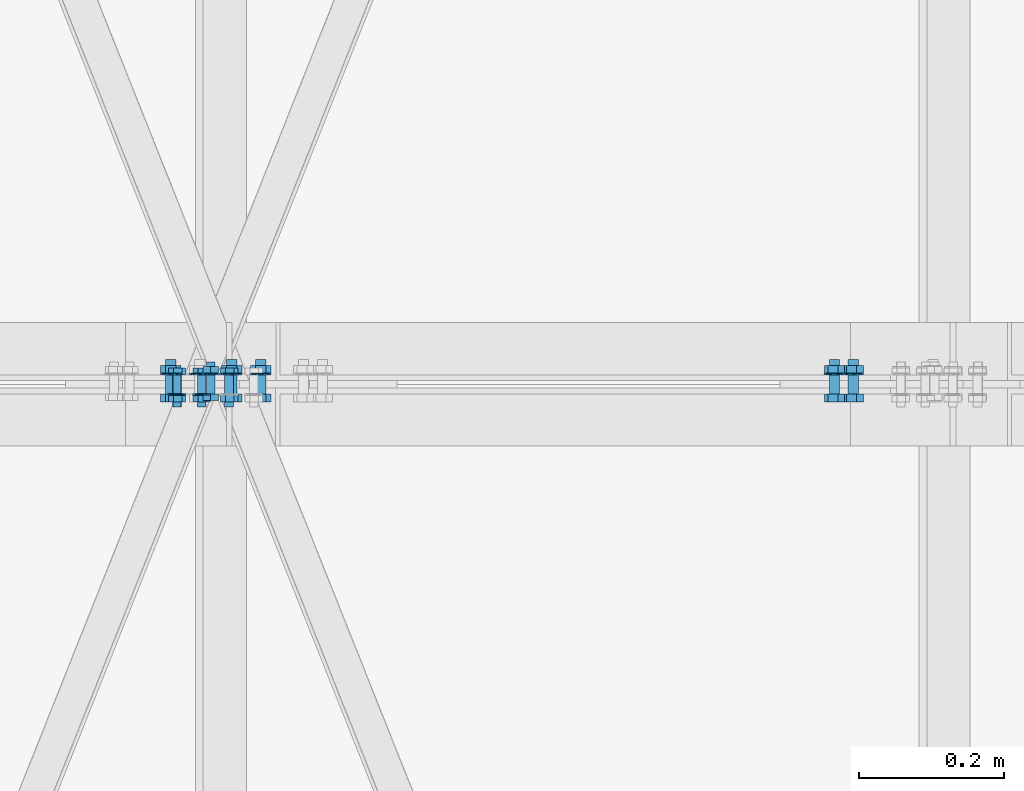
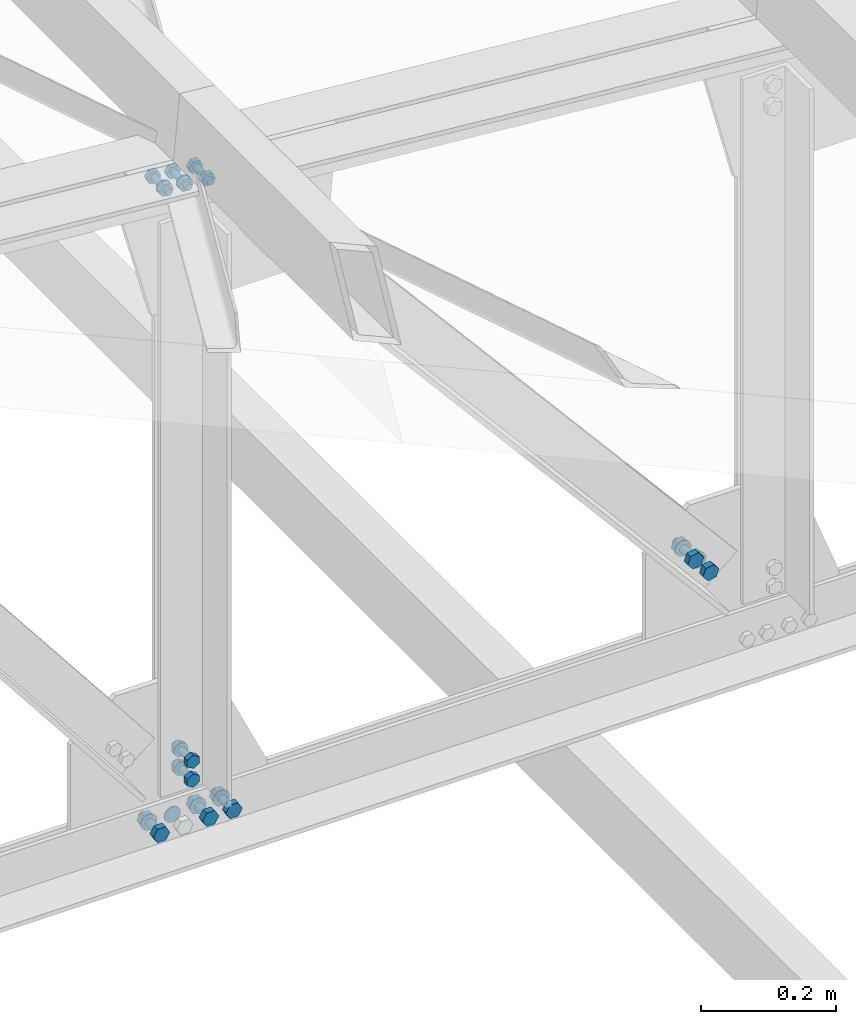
# One storey, part 158 of 251: 40 mechanical fasteners.
"""IFC4 building model written with IfcOpenShell, lengths in metres."""

from ifc_helpers import new_model, si_unit, frame, origin_with_axes, place, context, project, spatial, polyline, outline, extrude, type_object, element, save


model = new_model("IFC4")

# Units and contexts
model_context = context("Model", 3, precision=1e-05, world=origin_with_axes())
ifc_project = project(units=[si_unit("LENGTHUNIT", "METRE"), si_unit("AREAUNIT", "SQUARE_METRE"), si_unit("VOLUMEUNIT", "CUBIC_METRE"), si_unit("MASSUNIT", "GRAM", prefix="KILO"), si_unit("TIMEUNIT", "SECOND"), si_unit("PLANEANGLEUNIT", "RADIAN"), si_unit("SOLIDANGLEUNIT", "STERADIAN"), si_unit("THERMODYNAMICTEMPERATUREUNIT", "DEGREE_CELSIUS")], contexts=[model_context])

# Site, building, storey
placement_1 = place(None, origin_with_axes())
site = spatial("IfcSite", under=ifc_project, at=placement_1, Name="Italia", CompositionType="ELEMENT")
building = spatial("IfcBuilding", under=site, at=placement_1, Name="Deposito", CompositionType="ELEMENT")
storey = spatial("IfcBuildingStorey", under=building, at=placement_1, Name="Storey 0", CompositionType="ELEMENT", Elevation=0.0)

# Mechanical fasteners
mechanical_fastener_type_1 = type_object("IfcMechanicalFastenerType", Name="Reticolare 4", PredefinedType="BOLT")
placement_2 = place(placement_1, origin_with_axes())
mechanical_fastener_1_placement = place(placement_2, origin_with_axes())
element("IfcMechanicalFastener", 1, at=mechanical_fastener_1_placement, inside=storey, type_object=mechanical_fastener_type_1, Name="Reticolare 4", NominalDiameter=0.028, context=model_context, shape_type="SweptSolid", body=[
    extrude(outline(polyline([(0.0, 0.0), (-0.000476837, -0.00362349), (-0.00187492, -0.00699997), (-0.0041008, -0.00989962), (-0.00699997, -0.0121245), (-0.010376, -0.0135231), (-0.0139999, -0.0139999), (-0.0176239, -0.0135231), (-0.0209999, -0.0121245), (-0.0238991, -0.00989962), (-0.026125, -0.00699997), (-0.027523, -0.00362349), (-0.0279999, 0.0), (-0.027523, 0.00362349), (-0.026125, 0.00699997), (-0.0238991, 0.00989962), (-0.0209999, 0.0121245), (-0.0176239, 0.0135231), (-0.0139999, 0.0139999), (-0.010376, 0.0135231), (-0.00699997, 0.0121245), (-0.0041008, 0.00989962), (-0.00187492, 0.00699997), (-0.000476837, 0.00362349), (0.0, 0.0)])), frame((17.9996, 10.015, 5.009), z_axis=(0.0, -1.0, 0.0), x_axis=(1.0, 0.0, 0.0)), (0.0, 0.0, 1.0), 0.00200081),
])
mechanical_fastener_type_2 = type_object("IfcMechanicalFastenerType", Name="Reticolare 4", PredefinedType="BOLT")
mechanical_fastener_2_placement = place(placement_2, origin_with_axes())
element("IfcMechanicalFastener", 2, at=mechanical_fastener_2_placement, inside=storey, type_object=mechanical_fastener_type_2, Name="Reticolare 4", NominalDiameter=0.0139997, context=model_context, shape_type="SweptSolid", body=[
    extrude(outline(polyline([(0.0, 0.0), (-0.0139999, 0.0), (-0.0209999, 0.0121241), (-0.0139999, 0.0242486), (0.0, 0.0242486), (0.00699997, 0.0121241), (0.0, 0.0)])), frame((17.9526, 9.987, 4.99688), z_axis=(0.0, -1.0, 0.0), x_axis=(1.0, 0.0, 0.0)), (0.0, 0.0, 1.0), 0.0112009),
])
mechanical_fastener_type_3 = type_object("IfcMechanicalFastenerType", Name="Reticolare 4", PredefinedType="BOLT")
mechanical_fastener_3_placement = place(placement_2, origin_with_axes())
element("IfcMechanicalFastener", 3, at=mechanical_fastener_3_placement, inside=storey, type_object=mechanical_fastener_type_3, Name="Reticolare 4", NominalDiameter=0.014, context=model_context, shape_type="SweptSolid", body=[
    extrude(outline(polyline([(0.0, 0.0), (-0.000238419, -0.0018115), (-0.000938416, -0.00349998), (-0.0020504, -0.00494957), (-0.00349998, -0.00606203), (-0.00518799, -0.00676155), (-0.00699997, -0.00699997), (-0.00881195, -0.00676155), (-0.0105, -0.00606203), (-0.0119495, -0.00494957), (-0.0130615, -0.00349998), (-0.0137615, -0.0018115), (-0.0139999, 0.0), (-0.0137615, 0.0018115), (-0.0130615, 0.00349998), (-0.0119495, 0.00494957), (-0.0105, 0.00606203), (-0.00881195, 0.00676155), (-0.00699997, 0.00699997), (-0.00518799, 0.00676155), (-0.00349998, 0.00606203), (-0.0020504, 0.00494957), (-0.000938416, 0.00349998), (-0.000238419, 0.0018115), (0.0, 0.0)])), frame((17.9526, 10.034, 5.009), z_axis=(0.0, -1.0, 0.0), x_axis=(1.0, 0.0, 0.0)), (0.0, 0.0, 1.0), 0.0469999),
])
mechanical_fastener_type_4 = type_object("IfcMechanicalFastenerType", Name="Reticolare 4", PredefinedType="BOLT")
mechanical_fastener_4_placement = place(placement_2, origin_with_axes())
element("IfcMechanicalFastener", 4, at=mechanical_fastener_4_placement, inside=storey, type_object=mechanical_fastener_type_4, Name="Reticolare 4", NominalDiameter=0.0139997, context=model_context, shape_type="SweptSolid", body=[
    extrude(outline(polyline([(0.0, 0.0), (-0.0139999, 0.0), (-0.0209999, 0.0121241), (-0.0139999, 0.0242486), (0.0, 0.0242486), (0.00699997, 0.0121241), (0.0, 0.0)])), frame((17.9526, 10.0262, 4.99688), z_axis=(0.0, -1.0, 0.0), x_axis=(1.0, 0.0, 0.0)), (0.0, 0.0, 1.0), 0.0112),
])
mechanical_fastener_type_5 = type_object("IfcMechanicalFastenerType", Name="Reticolare 4", PredefinedType="BOLT")
mechanical_fastener_5_placement = place(placement_2, origin_with_axes())
element("IfcMechanicalFastener", 5, at=mechanical_fastener_5_placement, inside=storey, type_object=mechanical_fastener_type_5, Name="Reticolare 4", NominalDiameter=0.028, context=model_context, shape_type="SweptSolid", body=[
    extrude(outline(polyline([(0.0, 0.0), (-0.000476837, -0.00362349), (-0.00187492, -0.00699997), (-0.0041008, -0.00989962), (-0.00699997, -0.0121245), (-0.010376, -0.0135231), (-0.0139999, -0.0139999), (-0.0176239, -0.0135231), (-0.0209999, -0.0121245), (-0.0238991, -0.00989962), (-0.026125, -0.00699997), (-0.027523, -0.00362349), (-0.0279999, 0.0), (-0.027523, 0.00362349), (-0.026125, 0.00699997), (-0.0238991, 0.00989962), (-0.0209999, 0.0121245), (-0.0176239, 0.0135231), (-0.0139999, 0.0139999), (-0.010376, 0.0135231), (-0.00699997, 0.0121245), (-0.0041008, 0.00989962), (-0.00187492, 0.00699997), (-0.000476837, 0.00362349), (0.0, 0.0)])), frame((17.9596, 10.015, 5.009), z_axis=(0.0, -1.0, 0.0), x_axis=(1.0, 0.0, 0.0)), (0.0, 0.0, 1.0), 0.00200081),
])
mechanical_fastener_type_6 = type_object("IfcMechanicalFastenerType", Name="Reticolare 4", PredefinedType="BOLT")
mechanical_fastener_6_placement = place(placement_2, origin_with_axes())
element("IfcMechanicalFastener", 6, at=mechanical_fastener_6_placement, inside=storey, type_object=mechanical_fastener_type_6, Name="Reticolare 4", NominalDiameter=0.0139997, context=model_context, shape_type="SweptSolid", body=[
    extrude(outline(polyline([(0.0, 0.0), (-0.0139999, 0.0), (-0.0209999, 0.0121241), (-0.0139999, 0.0242486), (0.0, 0.0242486), (0.00699997, 0.0121241), (0.0, 0.0)])), frame((18.0366, 9.987, 4.99688), z_axis=(0.0, -1.0, 0.0), x_axis=(1.0, 0.0, 0.0)), (0.0, 0.0, 1.0), 0.0112009),
])
mechanical_fastener_type_7 = type_object("IfcMechanicalFastenerType", Name="Reticolare 4", PredefinedType="BOLT")
mechanical_fastener_7_placement = place(placement_2, origin_with_axes())
element("IfcMechanicalFastener", 7, at=mechanical_fastener_7_placement, inside=storey, type_object=mechanical_fastener_type_7, Name="Reticolare 4", NominalDiameter=0.014, context=model_context, shape_type="SweptSolid", body=[
    extrude(outline(polyline([(0.0, 0.0), (-0.000238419, -0.0018115), (-0.000938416, -0.00349998), (-0.0020504, -0.00494957), (-0.00349998, -0.00606203), (-0.00518799, -0.00676155), (-0.00699997, -0.00699997), (-0.00881195, -0.00676155), (-0.0105, -0.00606203), (-0.0119495, -0.00494957), (-0.0130615, -0.00349998), (-0.0137615, -0.0018115), (-0.0139999, 0.0), (-0.0137615, 0.0018115), (-0.0130615, 0.00349998), (-0.0119495, 0.00494957), (-0.0105, 0.00606203), (-0.00881195, 0.00676155), (-0.00699997, 0.00699997), (-0.00518799, 0.00676155), (-0.00349998, 0.00606203), (-0.0020504, 0.00494957), (-0.000938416, 0.00349998), (-0.000238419, 0.0018115), (0.0, 0.0)])), frame((18.0366, 10.034, 5.009), z_axis=(0.0, -1.0, 0.0), x_axis=(1.0, 0.0, 0.0)), (0.0, 0.0, 1.0), 0.0469999),
])
mechanical_fastener_type_8 = type_object("IfcMechanicalFastenerType", Name="Reticolare 4", PredefinedType="BOLT")
mechanical_fastener_8_placement = place(placement_2, origin_with_axes())
element("IfcMechanicalFastener", 8, at=mechanical_fastener_8_placement, inside=storey, type_object=mechanical_fastener_type_8, Name="Reticolare 4", NominalDiameter=0.0139997, context=model_context, shape_type="SweptSolid", body=[
    extrude(outline(polyline([(0.0, 0.0), (-0.0139999, 0.0), (-0.0209999, 0.0121241), (-0.0139999, 0.0242486), (0.0, 0.0242486), (0.00699997, 0.0121241), (0.0, 0.0)])), frame((18.0366, 10.0262, 4.99688), z_axis=(0.0, -1.0, 0.0), x_axis=(1.0, 0.0, 0.0)), (0.0, 0.0, 1.0), 0.0112),
])
mechanical_fastener_type_9 = type_object("IfcMechanicalFastenerType", Name="Reticolare 4", PredefinedType="BOLT")
mechanical_fastener_9_placement = place(placement_2, origin_with_axes())
element("IfcMechanicalFastener", 9, at=mechanical_fastener_9_placement, inside=storey, type_object=mechanical_fastener_type_9, Name="Reticolare 4", NominalDiameter=0.028, context=model_context, shape_type="SweptSolid", body=[
    extrude(outline(polyline([(0.0, 0.0), (-0.000476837, -0.00362349), (-0.00187492, -0.00699997), (-0.0041008, -0.00989962), (-0.00699997, -0.0121245), (-0.010376, -0.0135231), (-0.0139999, -0.0139999), (-0.0176239, -0.0135231), (-0.0209999, -0.0121245), (-0.0238991, -0.00989962), (-0.026125, -0.00699997), (-0.027523, -0.00362349), (-0.0279999, 0.0), (-0.027523, 0.00362349), (-0.026125, 0.00699997), (-0.0238991, 0.00989962), (-0.0209999, 0.0121245), (-0.0176239, 0.0135231), (-0.0139999, 0.0139999), (-0.010376, 0.0135231), (-0.00699997, 0.0121245), (-0.0041008, 0.00989962), (-0.00187492, 0.00699997), (-0.000476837, 0.00362349), (0.0, 0.0)])), frame((18.0436, 10.015, 5.009), z_axis=(0.0, -1.0, 0.0), x_axis=(1.0, 0.0, 0.0)), (0.0, 0.0, 1.0), 0.00200081),
])
mechanical_fastener_type_10 = type_object("IfcMechanicalFastenerType", Name="Reticolare 4", PredefinedType="BOLT")
mechanical_fastener_10_placement = place(placement_2, origin_with_axes())
element("IfcMechanicalFastener", 10, at=mechanical_fastener_10_placement, inside=storey, type_object=mechanical_fastener_type_10, Name="Reticolare 4", NominalDiameter=0.0139997, context=model_context, shape_type="SweptSolid", body=[
    extrude(outline(polyline([(0.0, 0.0), (-0.0139999, 0.0), (-0.0209999, 0.0121241), (-0.0139999, 0.0242486), (0.0, 0.0242486), (0.00699997, 0.0121241), (0.0, 0.0)])), frame((18.0766, 9.987, 4.99688), z_axis=(0.0, -1.0, 0.0), x_axis=(1.0, 0.0, 0.0)), (0.0, 0.0, 1.0), 0.0112009),
])
mechanical_fastener_type_11 = type_object("IfcMechanicalFastenerType", Name="Reticolare 4", PredefinedType="BOLT")
mechanical_fastener_11_placement = place(placement_2, origin_with_axes())
element("IfcMechanicalFastener", 11, at=mechanical_fastener_11_placement, inside=storey, type_object=mechanical_fastener_type_11, Name="Reticolare 4", NominalDiameter=0.014, context=model_context, shape_type="SweptSolid", body=[
    extrude(outline(polyline([(0.0, 0.0), (-0.000238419, -0.0018115), (-0.000938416, -0.00349998), (-0.0020504, -0.00494957), (-0.00349998, -0.00606203), (-0.00518799, -0.00676155), (-0.00699997, -0.00699997), (-0.00881195, -0.00676155), (-0.0105, -0.00606203), (-0.0119495, -0.00494957), (-0.0130615, -0.00349998), (-0.0137615, -0.0018115), (-0.0139999, 0.0), (-0.0137615, 0.0018115), (-0.0130615, 0.00349998), (-0.0119495, 0.00494957), (-0.0105, 0.00606203), (-0.00881195, 0.00676155), (-0.00699997, 0.00699997), (-0.00518799, 0.00676155), (-0.00349998, 0.00606203), (-0.0020504, 0.00494957), (-0.000938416, 0.00349998), (-0.000238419, 0.0018115), (0.0, 0.0)])), frame((18.0766, 10.034, 5.009), z_axis=(0.0, -1.0, 0.0), x_axis=(1.0, 0.0, 0.0)), (0.0, 0.0, 1.0), 0.0469999),
])
mechanical_fastener_type_12 = type_object("IfcMechanicalFastenerType", Name="Reticolare 4", PredefinedType="BOLT")
mechanical_fastener_12_placement = place(placement_2, origin_with_axes())
element("IfcMechanicalFastener", 12, at=mechanical_fastener_12_placement, inside=storey, type_object=mechanical_fastener_type_12, Name="Reticolare 4", NominalDiameter=0.0139997, context=model_context, shape_type="SweptSolid", body=[
    extrude(outline(polyline([(0.0, 0.0), (-0.0139999, 0.0), (-0.0209999, 0.0121241), (-0.0139999, 0.0242486), (0.0, 0.0242486), (0.00699997, 0.0121241), (0.0, 0.0)])), frame((18.0766, 10.0262, 4.99688), z_axis=(0.0, -1.0, 0.0), x_axis=(1.0, 0.0, 0.0)), (0.0, 0.0, 1.0), 0.0112),
])
mechanical_fastener_type_13 = type_object("IfcMechanicalFastenerType", Name="Reticolare 4", PredefinedType="BOLT")
mechanical_fastener_13_placement = place(placement_2, origin_with_axes())
element("IfcMechanicalFastener", 13, at=mechanical_fastener_13_placement, inside=storey, type_object=mechanical_fastener_type_13, Name="Reticolare 4", NominalDiameter=0.028, context=model_context, shape_type="SweptSolid", body=[
    extrude(outline(polyline([(0.0, 0.0), (-0.000476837, -0.00362349), (-0.00187492, -0.00699997), (-0.0041008, -0.00989962), (-0.00699997, -0.0121245), (-0.010376, -0.0135231), (-0.0139999, -0.0139999), (-0.0176239, -0.0135231), (-0.0209999, -0.0121245), (-0.0238991, -0.00989962), (-0.026125, -0.00699997), (-0.027523, -0.00362349), (-0.0279999, 0.0), (-0.027523, 0.00362349), (-0.026125, 0.00699997), (-0.0238991, 0.00989962), (-0.0209999, 0.0121245), (-0.0176239, 0.0135231), (-0.0139999, 0.0139999), (-0.010376, 0.0135231), (-0.00699997, 0.0121245), (-0.0041008, 0.00989962), (-0.00187492, 0.00699997), (-0.000476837, 0.00362349), (0.0, 0.0)])), frame((18.0836, 10.015, 5.009), z_axis=(0.0, -1.0, 0.0), x_axis=(1.0, 0.0, 0.0)), (0.0, 0.0, 1.0), 0.00200081),
])
mechanical_fastener_type_14 = type_object("IfcMechanicalFastenerType", Name="Reticolare 4", PredefinedType="BOLT")
mechanical_fastener_14_placement = place(placement_2, origin_with_axes())
element("IfcMechanicalFastener", 14, at=mechanical_fastener_14_placement, inside=storey, type_object=mechanical_fastener_type_14, Name="Reticolare 4", NominalDiameter=0.0120001, context=model_context, shape_type="SweptSolid", body=[
    extrude(outline(polyline([(0.0, 0.0), (0.0, -0.0120001), (-0.0103931, -0.0180001), (-0.0207863, -0.0120001), (-0.0207863, 0.0), (-0.0103931, 0.00600004), (0.0, 0.0)])), frame((18.011, 9.987, 5.09253), z_axis=(0.0, -1.0, 0.0), x_axis=(1.0, 0.0, 0.0)), (0.0, 0.0, 1.0), 0.00960064),
])
mechanical_fastener_type_15 = type_object("IfcMechanicalFastenerType", Name="Reticolare 4", PredefinedType="BOLT")
mechanical_fastener_15_placement = place(placement_2, origin_with_axes())
element("IfcMechanicalFastener", 15, at=mechanical_fastener_15_placement, inside=storey, type_object=mechanical_fastener_type_15, Name="Reticolare 4", NominalDiameter=0.012, context=model_context, shape_type="SweptSolid", body=[
    extrude(outline(polyline([(0.0, 0.0), (-0.000204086, -0.00155306), (-0.000804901, -0.00299978), (-0.00175858, -0.00424242), (-0.00300026, -0.00519609), (-0.00444794, -0.00579548), (-0.00600052, -0.00600004), (-0.0075531, -0.00579548), (-0.00900078, -0.00519609), (-0.0102425, -0.00424242), (-0.0111961, -0.00299978), (-0.011797, -0.00155306), (-0.012001, 0.0), (-0.011797, 0.00155306), (-0.0111961, 0.00299978), (-0.0102425, 0.00424242), (-0.00900078, 0.00519609), (-0.0075531, 0.00579548), (-0.00600052, 0.00600004), (-0.00444794, 0.00579548), (-0.00300026, 0.00519609), (-0.00175858, 0.00424242), (-0.000804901, 0.00299978), (-0.000204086, 0.00155306), (0.0, 0.0)])), frame((18.0066, 10.031, 5.08653), z_axis=(0.0, -1.0, 0.0), x_axis=(1.0, 0.0, 0.0)), (0.0, 0.0, 1.0), 0.0439997),
])
mechanical_fastener_type_16 = type_object("IfcMechanicalFastenerType", Name="Reticolare 4", PredefinedType="BOLT")
mechanical_fastener_16_placement = place(placement_2, origin_with_axes())
element("IfcMechanicalFastener", 16, at=mechanical_fastener_16_placement, inside=storey, type_object=mechanical_fastener_type_16, Name="Reticolare 4", NominalDiameter=0.0120001, context=model_context, shape_type="SweptSolid", body=[
    extrude(outline(polyline([(0.0, 0.0), (0.0, -0.0120001), (-0.0103931, -0.0180001), (-0.0207863, -0.0120001), (-0.0207863, 0.0), (-0.0103931, 0.00600004), (0.0, 0.0)])), frame((18.011, 10.0246, 5.09253), z_axis=(0.0, -1.0, 0.0), x_axis=(1.0, 0.0, 0.0)), (0.0, 0.0, 1.0), 0.00959969),
])
mechanical_fastener_type_17 = type_object("IfcMechanicalFastenerType", Name="Reticolare 4", PredefinedType="BOLT")
mechanical_fastener_17_placement = place(placement_2, origin_with_axes())
element("IfcMechanicalFastener", 17, at=mechanical_fastener_17_placement, inside=storey, type_object=mechanical_fastener_type_17, Name="Reticolare 4", NominalDiameter=0.024, context=model_context, shape_type="SweptSolid", body=[
    extrude(outline(polyline([(0.0, 0.0), (-0.000408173, -0.00310564), (-0.00160599, -0.00600004), (-0.00351334, -0.00848532), (-0.00599861, -0.0103922), (-0.00889397, -0.011591), (-0.0119991, -0.0120001), (-0.0151043, -0.011591), (-0.0179996, -0.0103922), (-0.0204849, -0.00848532), (-0.0223923, -0.00600004), (-0.0235901, -0.00310564), (-0.0239983, 0.0), (-0.0235901, 0.00310564), (-0.0223923, 0.00600004), (-0.0204849, 0.00848532), (-0.0179996, 0.0103922), (-0.0151043, 0.011591), (-0.0119991, 0.0120001), (-0.00889397, 0.011591), (-0.00599861, 0.0103922), (-0.00351334, 0.00848532), (-0.00160599, 0.00600004), (-0.000408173, 0.00310564), (0.0, 0.0)])), frame((18.0126, 10.015, 5.08653), z_axis=(0.0, -1.0, 0.0), x_axis=(1.0, 0.0, 0.0)), (0.0, 0.0, 1.0), 0.00200081),
])
mechanical_fastener_type_18 = type_object("IfcMechanicalFastenerType", Name="Reticolare 4", PredefinedType="BOLT")
mechanical_fastener_18_placement = place(placement_2, origin_with_axes())
element("IfcMechanicalFastener", 18, at=mechanical_fastener_18_placement, inside=storey, type_object=mechanical_fastener_type_18, Name="Reticolare 4", NominalDiameter=0.0120001, context=model_context, shape_type="SweptSolid", body=[
    extrude(outline(polyline([(0.0, 0.0), (0.0, -0.0120001), (-0.0103931, -0.0180001), (-0.0207863, -0.0120001), (-0.0207863, 0.0), (-0.0103931, 0.00600004), (0.0, 0.0)])), frame((18.011, 9.987, 5.12653), z_axis=(0.0, -1.0, 0.0), x_axis=(1.0, 0.0, 0.0)), (0.0, 0.0, 1.0), 0.00960064),
])
mechanical_fastener_type_19 = type_object("IfcMechanicalFastenerType", Name="Reticolare 4", PredefinedType="BOLT")
mechanical_fastener_19_placement = place(placement_2, origin_with_axes())
element("IfcMechanicalFastener", 19, at=mechanical_fastener_19_placement, inside=storey, type_object=mechanical_fastener_type_19, Name="Reticolare 4", NominalDiameter=0.012, context=model_context, shape_type="SweptSolid", body=[
    extrude(outline(polyline([(0.0, 0.0), (-0.000204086, -0.00155306), (-0.000804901, -0.00299978), (-0.00175858, -0.00424242), (-0.00300026, -0.00519609), (-0.00444794, -0.00579548), (-0.00600052, -0.00600004), (-0.0075531, -0.00579548), (-0.00900078, -0.00519609), (-0.0102425, -0.00424242), (-0.0111961, -0.00299978), (-0.011797, -0.00155306), (-0.012001, 0.0), (-0.011797, 0.00155306), (-0.0111961, 0.00299978), (-0.0102425, 0.00424242), (-0.00900078, 0.00519609), (-0.0075531, 0.00579548), (-0.00600052, 0.00600004), (-0.00444794, 0.00579548), (-0.00300026, 0.00519609), (-0.00175858, 0.00424242), (-0.000804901, 0.00299978), (-0.000204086, 0.00155306), (0.0, 0.0)])), frame((18.0066, 10.031, 5.12053), z_axis=(0.0, -1.0, 0.0), x_axis=(1.0, 0.0, 0.0)), (0.0, 0.0, 1.0), 0.0439997),
])
mechanical_fastener_type_20 = type_object("IfcMechanicalFastenerType", Name="Reticolare 4", PredefinedType="BOLT")
mechanical_fastener_20_placement = place(placement_2, origin_with_axes())
element("IfcMechanicalFastener", 20, at=mechanical_fastener_20_placement, inside=storey, type_object=mechanical_fastener_type_20, Name="Reticolare 4", NominalDiameter=0.0120001, context=model_context, shape_type="SweptSolid", body=[
    extrude(outline(polyline([(0.0, 0.0), (0.0, -0.0120001), (-0.0103931, -0.0180001), (-0.0207863, -0.0120001), (-0.0207863, 0.0), (-0.0103931, 0.00600004), (0.0, 0.0)])), frame((18.011, 10.0246, 5.12653), z_axis=(0.0, -1.0, 0.0), x_axis=(1.0, 0.0, 0.0)), (0.0, 0.0, 1.0), 0.00959969),
])
mechanical_fastener_type_21 = type_object("IfcMechanicalFastenerType", Name="Reticolare 4", PredefinedType="BOLT")
mechanical_fastener_21_placement = place(placement_2, origin_with_axes())
element("IfcMechanicalFastener", 21, at=mechanical_fastener_21_placement, inside=storey, type_object=mechanical_fastener_type_21, Name="Reticolare 4", NominalDiameter=0.024, context=model_context, shape_type="SweptSolid", body=[
    extrude(outline(polyline([(0.0, 0.0), (-0.000408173, -0.00310564), (-0.00160599, -0.00600004), (-0.00351334, -0.00848532), (-0.00599861, -0.0103922), (-0.00889397, -0.011591), (-0.0119991, -0.0120001), (-0.0151043, -0.011591), (-0.0179996, -0.0103922), (-0.0204849, -0.00848532), (-0.0223923, -0.00600004), (-0.0235901, -0.00310564), (-0.0239983, 0.0), (-0.0235901, 0.00310564), (-0.0223923, 0.00600004), (-0.0204849, 0.00848532), (-0.0179996, 0.0103922), (-0.0151043, 0.011591), (-0.0119991, 0.0120001), (-0.00889397, 0.011591), (-0.00599861, 0.0103922), (-0.00351334, 0.00848532), (-0.00160599, 0.00600004), (-0.000408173, 0.00310564), (0.0, 0.0)])), frame((18.0126, 10.015, 5.12053), z_axis=(0.0, -1.0, 0.0), x_axis=(1.0, 0.0, 0.0)), (0.0, 0.0, 1.0), 0.00200081),
])
mechanical_fastener_type_22 = type_object("IfcMechanicalFastenerType", Name="Reticolare 4", PredefinedType="BOLT")
mechanical_fastener_22_placement = place(placement_2, origin_with_axes())
element("IfcMechanicalFastener", 22, at=mechanical_fastener_22_placement, inside=storey, type_object=mechanical_fastener_type_22, Name="Reticolare 4", NominalDiameter=0.0139996, context=model_context, shape_type="SweptSolid", body=[
    extrude(outline(polyline([(0.0, 0.0), (-0.00905609, 0.0106759), (-0.00433922, 0.0238571), (0.00943565, 0.0263624), (0.0184917, 0.0156865), (0.0137749, 0.0025053), (0.0, 0.0)])), frame((18.8804, 9.987, 5.1407), z_axis=(0.0, -1.0, 0.0), x_axis=(1.0, 0.0, 0.0)), (0.0, 0.0, 1.0), 0.0112009),
])
mechanical_fastener_type_23 = type_object("IfcMechanicalFastenerType", Name="Reticolare 4", PredefinedType="BOLT")
mechanical_fastener_23_placement = place(placement_2, origin_with_axes())
element("IfcMechanicalFastener", 23, at=mechanical_fastener_23_placement, inside=storey, type_object=mechanical_fastener_type_23, Name="Reticolare 4", NominalDiameter=0.014, context=model_context, shape_type="SweptSolid", body=[
    extrude(outline(polyline([(0.0, 0.0), (-0.000238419, -0.0018115), (-0.000938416, -0.00349998), (-0.0020504, -0.00494957), (-0.00349998, -0.00606203), (-0.00518799, -0.00676155), (-0.00699997, -0.00699997), (-0.00881195, -0.00676155), (-0.0105, -0.00606203), (-0.0119495, -0.00494957), (-0.0130615, -0.00349998), (-0.0137615, -0.0018115), (-0.0139999, 0.0), (-0.0137615, 0.0018115), (-0.0130615, 0.00349998), (-0.0119495, 0.00494957), (-0.0105, 0.00606203), (-0.00881195, 0.00676155), (-0.00699997, 0.00699997), (-0.00518799, 0.00676155), (-0.00349998, 0.00606203), (-0.0020504, 0.00494957), (-0.000938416, 0.00349998), (-0.000238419, 0.0018115), (0.0, 0.0)])), frame((18.8921, 10.034, 5.15388), z_axis=(0.0, -1.0, 0.0), x_axis=(1.0, 0.0, 0.0)), (0.0, 0.0, 1.0), 0.0469999),
])
mechanical_fastener_type_24 = type_object("IfcMechanicalFastenerType", Name="Reticolare 4", PredefinedType="BOLT")
mechanical_fastener_24_placement = place(placement_2, origin_with_axes())
element("IfcMechanicalFastener", 24, at=mechanical_fastener_24_placement, inside=storey, type_object=mechanical_fastener_type_24, Name="Reticolare 4", NominalDiameter=0.0139996, context=model_context, shape_type="SweptSolid", body=[
    extrude(outline(polyline([(0.0, 0.0), (-0.00905609, 0.0106759), (-0.00433922, 0.0238571), (0.00943565, 0.0263624), (0.0184917, 0.0156865), (0.0137749, 0.0025053), (0.0, 0.0)])), frame((18.8804, 10.0262, 5.1407), z_axis=(0.0, -1.0, 0.0), x_axis=(1.0, 0.0, 0.0)), (0.0, 0.0, 1.0), 0.0112),
])
mechanical_fastener_type_25 = type_object("IfcMechanicalFastenerType", Name="Reticolare 4", PredefinedType="BOLT")
mechanical_fastener_25_placement = place(placement_2, origin_with_axes())
element("IfcMechanicalFastener", 25, at=mechanical_fastener_25_placement, inside=storey, type_object=mechanical_fastener_type_25, Name="Reticolare 4", NominalDiameter=0.028, context=model_context, shape_type="SweptSolid", body=[
    extrude(outline(polyline([(0.0, 0.0), (-0.000476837, -0.00362349), (-0.00187492, -0.00699997), (-0.0041008, -0.00989962), (-0.00699997, -0.0121245), (-0.010376, -0.0135231), (-0.0139999, -0.0139999), (-0.0176239, -0.0135231), (-0.0209999, -0.0121245), (-0.0238991, -0.00989962), (-0.026125, -0.00699997), (-0.027523, -0.00362349), (-0.0279999, 0.0), (-0.027523, 0.00362349), (-0.026125, 0.00699997), (-0.0238991, 0.00989962), (-0.0209999, 0.0121245), (-0.0176239, 0.0135231), (-0.0139999, 0.0139999), (-0.010376, 0.0135231), (-0.00699997, 0.0121245), (-0.0041008, 0.00989962), (-0.00187492, 0.00699997), (-0.000476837, 0.00362349), (0.0, 0.0)])), frame((18.8991, 10.015, 5.15388), z_axis=(0.0, -1.0, 0.0), x_axis=(1.0, 0.0, 0.0)), (0.0, 0.0, 1.0), 0.00200081),
])
mechanical_fastener_type_26 = type_object("IfcMechanicalFastenerType", Name="Reticolare 4", PredefinedType="BOLT")
mechanical_fastener_26_placement = place(placement_2, origin_with_axes())
element("IfcMechanicalFastener", 26, at=mechanical_fastener_26_placement, inside=storey, type_object=mechanical_fastener_type_26, Name="Reticolare 4", NominalDiameter=0.013999, context=model_context, shape_type="SweptSolid", body=[
    extrude(outline(polyline([(0.0, 0.0), (-0.009058, 0.0106759), (-0.00433922, 0.0238571), (0.00943375, 0.0263624), (0.0184917, 0.0156865), (0.013773, 0.0025053), (0.0, 0.0)])), frame((18.8545, 9.987, 5.1712), z_axis=(0.0, -1.0, 0.0), x_axis=(1.0, 0.0, 0.0)), (0.0, 0.0, 1.0), 0.0112009),
])
mechanical_fastener_type_27 = type_object("IfcMechanicalFastenerType", Name="Reticolare 4", PredefinedType="BOLT")
mechanical_fastener_27_placement = place(placement_2, origin_with_axes())
element("IfcMechanicalFastener", 27, at=mechanical_fastener_27_placement, inside=storey, type_object=mechanical_fastener_type_27, Name="Reticolare 4", NominalDiameter=0.014, context=model_context, shape_type="SweptSolid", body=[
    extrude(outline(polyline([(0.0, 0.0), (-0.000238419, -0.0018115), (-0.000938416, -0.00349998), (-0.0020504, -0.00494957), (-0.00349998, -0.00606203), (-0.00518799, -0.00676155), (-0.00699997, -0.00699997), (-0.00881195, -0.00676155), (-0.0105, -0.00606203), (-0.0119495, -0.00494957), (-0.0130615, -0.00349998), (-0.0137615, -0.0018115), (-0.0139999, 0.0), (-0.0137615, 0.0018115), (-0.0130615, 0.00349998), (-0.0119495, 0.00494957), (-0.0105, 0.00606203), (-0.00881195, 0.00676155), (-0.00699997, 0.00699997), (-0.00518799, 0.00676155), (-0.00349998, 0.00606203), (-0.0020504, 0.00494957), (-0.000938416, 0.00349998), (-0.000238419, 0.0018115), (0.0, 0.0)])), frame((18.8662, 10.034, 5.18438), z_axis=(0.0, -1.0, 0.0), x_axis=(1.0, 0.0, 0.0)), (0.0, 0.0, 1.0), 0.0469999),
])
mechanical_fastener_type_28 = type_object("IfcMechanicalFastenerType", Name="Reticolare 4", PredefinedType="BOLT")
mechanical_fastener_28_placement = place(placement_2, origin_with_axes())
element("IfcMechanicalFastener", 28, at=mechanical_fastener_28_placement, inside=storey, type_object=mechanical_fastener_type_28, Name="Reticolare 4", NominalDiameter=0.013999, context=model_context, shape_type="SweptSolid", body=[
    extrude(outline(polyline([(0.0, 0.0), (-0.009058, 0.0106759), (-0.00433922, 0.0238571), (0.00943375, 0.0263624), (0.0184917, 0.0156865), (0.013773, 0.0025053), (0.0, 0.0)])), frame((18.8545, 10.0262, 5.1712), z_axis=(0.0, -1.0, 0.0), x_axis=(1.0, 0.0, 0.0)), (0.0, 0.0, 1.0), 0.0112),
])
mechanical_fastener_type_29 = type_object("IfcMechanicalFastenerType", Name="Reticolare 4", PredefinedType="BOLT")
mechanical_fastener_29_placement = place(placement_2, origin_with_axes())
element("IfcMechanicalFastener", 29, at=mechanical_fastener_29_placement, inside=storey, type_object=mechanical_fastener_type_29, Name="Reticolare 4", NominalDiameter=0.028, context=model_context, shape_type="SweptSolid", body=[
    extrude(outline(polyline([(0.0, 0.0), (-0.000476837, -0.00362349), (-0.00187492, -0.00699997), (-0.0041008, -0.00989962), (-0.00699997, -0.0121245), (-0.010376, -0.0135231), (-0.0139999, -0.0139999), (-0.0176239, -0.0135231), (-0.0209999, -0.0121245), (-0.0238991, -0.00989962), (-0.026125, -0.00699997), (-0.027523, -0.00362349), (-0.0279999, 0.0), (-0.027523, 0.00362349), (-0.026125, 0.00699997), (-0.0238991, 0.00989962), (-0.0209999, 0.0121245), (-0.0176239, 0.0135231), (-0.0139999, 0.0139999), (-0.010376, 0.0135231), (-0.00699997, 0.0121245), (-0.0041008, 0.00989962), (-0.00187492, 0.00699997), (-0.000476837, 0.00362349), (0.0, 0.0)])), frame((18.8732, 10.015, 5.18438), z_axis=(0.0, -1.0, 0.0), x_axis=(1.0, 0.0, 0.0)), (0.0, 0.0, 1.0), 0.00200081),
])
mechanical_fastener_type_30 = type_object("IfcMechanicalFastenerType", Name="Reticolare 4", PredefinedType="BOLT")
mechanical_fastener_30_placement = place(placement_2, origin_with_axes())
element("IfcMechanicalFastener", 30, at=mechanical_fastener_30_placement, inside=storey, type_object=mechanical_fastener_type_30, Name="Reticolare 4", NominalDiameter=0.011999, context=model_context, shape_type="SweptSolid", body=[
    extrude(outline(polyline([(0.0, 0.0), (0.0119534, 0.00104618), (0.018837, -0.00878382), (0.0137653, -0.0196595), (0.00181198, -0.0207052), (-0.00507164, -0.0108757), (0.0, 0.0)])), frame((17.995, 10.013, 6.17882), z_axis=(0.0, 1.0, 0.0), x_axis=(-1.0, 0.0, 0.0)), (0.0, 0.0, 1.0), 0.00960064),
])
mechanical_fastener_type_31 = type_object("IfcMechanicalFastenerType", Name="Reticolare 4", PredefinedType="BOLT")
mechanical_fastener_31_placement = place(placement_2, origin_with_axes())
element("IfcMechanicalFastener", 31, at=mechanical_fastener_31_placement, inside=storey, type_object=mechanical_fastener_type_31, Name="Reticolare 4", NominalDiameter=0.012, context=model_context, shape_type="SweptSolid", body=[
    extrude(outline(polyline([(0.0, 0.0), (-0.000204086, -0.00155306), (-0.000804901, -0.00299978), (-0.00175858, -0.00424242), (-0.00300026, -0.00519609), (-0.00444794, -0.00579548), (-0.00600052, -0.00600004), (-0.0075531, -0.00579548), (-0.00900078, -0.00519609), (-0.0102425, -0.00424242), (-0.0111961, -0.00299978), (-0.011797, -0.00155306), (-0.012001, 0.0), (-0.011797, 0.00155306), (-0.0111961, 0.00299978), (-0.0102425, 0.00424242), (-0.00900078, 0.00519609), (-0.0075531, 0.00579548), (-0.00600052, 0.00600004), (-0.00444794, 0.00579548), (-0.00300026, 0.00519609), (-0.00175858, 0.00424242), (-0.000804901, 0.00299978), (-0.000204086, 0.00155306), (0.0, 0.0)])), frame((17.9821, 9.969, 6.16899), z_axis=(0.0, 1.0, 0.0), x_axis=(-1.0, 0.0, 0.0)), (0.0, 0.0, 1.0), 0.0439997),
])
mechanical_fastener_type_32 = type_object("IfcMechanicalFastenerType", Name="Reticolare 4", PredefinedType="BOLT")
mechanical_fastener_32_placement = place(placement_2, origin_with_axes())
element("IfcMechanicalFastener", 32, at=mechanical_fastener_32_placement, inside=storey, type_object=mechanical_fastener_type_32, Name="Reticolare 4", NominalDiameter=0.011999, context=model_context, shape_type="SweptSolid", body=[
    extrude(outline(polyline([(0.0, 0.0), (0.0119534, 0.00104618), (0.018837, -0.00878382), (0.0137653, -0.0196595), (0.00181198, -0.0207052), (-0.00507164, -0.0108757), (0.0, 0.0)])), frame((17.995, 9.9754, 6.17882), z_axis=(0.0, 1.0, 0.0), x_axis=(-1.0, 0.0, 0.0)), (0.0, 0.0, 1.0), 0.00959969),
])
mechanical_fastener_type_33 = type_object("IfcMechanicalFastenerType", Name="Reticolare 4", PredefinedType="BOLT")
mechanical_fastener_33_placement = place(placement_2, origin_with_axes())
element("IfcMechanicalFastener", 33, at=mechanical_fastener_33_placement, inside=storey, type_object=mechanical_fastener_type_33, Name="Reticolare 4", NominalDiameter=0.024, context=model_context, shape_type="SweptSolid", body=[
    extrude(outline(polyline([(0.0, 0.0), (-0.000408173, -0.00310564), (-0.00160599, -0.00600004), (-0.00351334, -0.00848532), (-0.00599861, -0.0103922), (-0.00889397, -0.011591), (-0.0119991, -0.0120001), (-0.0151043, -0.011591), (-0.0179996, -0.0103922), (-0.0204849, -0.00848532), (-0.0223923, -0.00600004), (-0.0235901, -0.00310564), (-0.0239983, 0.0), (-0.0235901, 0.00310564), (-0.0223923, 0.00600004), (-0.0204849, 0.00848532), (-0.0179996, 0.0103922), (-0.0151043, 0.011591), (-0.0119991, 0.0120001), (-0.00889397, 0.011591), (-0.00599861, 0.0103922), (-0.00351334, 0.00848532), (-0.00160599, 0.00600004), (-0.000408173, 0.00310564), (0.0, 0.0)])), frame((17.9761, 9.985, 6.16899), z_axis=(0.0, 1.0, 0.0), x_axis=(-1.0, 0.0, 0.0)), (0.0, 0.0, 1.0), 0.00200081),
])
mechanical_fastener_type_34 = type_object("IfcMechanicalFastenerType", Name="Reticolare 4", PredefinedType="BOLT")
mechanical_fastener_34_placement = place(placement_2, origin_with_axes())
element("IfcMechanicalFastener", 34, at=mechanical_fastener_34_placement, inside=storey, type_object=mechanical_fastener_type_34, Name="Reticolare 4", NominalDiameter=0.011999, context=model_context, shape_type="SweptSolid", body=[
    extrude(outline(polyline([(0.0, 0.0), (0.0119534, 0.0010457), (0.018837, -0.00878429), (0.0137653, -0.01966), (0.00181198, -0.0207057), (-0.00507164, -0.0108757), (0.0, 0.0)])), frame((17.9611, 10.013, 6.18179), z_axis=(0.0, 1.0, 0.0), x_axis=(-1.0, 0.0, 0.0)), (0.0, 0.0, 1.0), 0.00960064),
])
mechanical_fastener_type_35 = type_object("IfcMechanicalFastenerType", Name="Reticolare 4", PredefinedType="BOLT")
mechanical_fastener_35_placement = place(placement_2, origin_with_axes())
element("IfcMechanicalFastener", 35, at=mechanical_fastener_35_placement, inside=storey, type_object=mechanical_fastener_type_35, Name="Reticolare 4", NominalDiameter=0.012, context=model_context, shape_type="SweptSolid", body=[
    extrude(outline(polyline([(0.0, 0.0), (-0.000204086, -0.00155306), (-0.000804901, -0.00299978), (-0.00175858, -0.00424242), (-0.00300026, -0.00519609), (-0.00444794, -0.00579548), (-0.00600052, -0.00600004), (-0.0075531, -0.00579548), (-0.00900078, -0.00519609), (-0.0102425, -0.00424242), (-0.0111961, -0.00299978), (-0.011797, -0.00155306), (-0.012001, 0.0), (-0.011797, 0.00155306), (-0.0111961, 0.00299978), (-0.0102425, 0.00424242), (-0.00900078, 0.00519609), (-0.0075531, 0.00579548), (-0.00600052, 0.00600004), (-0.00444794, 0.00579548), (-0.00300026, 0.00519609), (-0.00175858, 0.00424242), (-0.000804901, 0.00299978), (-0.000204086, 0.00155306), (0.0, 0.0)])), frame((17.9482, 9.969, 6.17196), z_axis=(0.0, 1.0, 0.0), x_axis=(-1.0, 0.0, 0.0)), (0.0, 0.0, 1.0), 0.0439997),
])
mechanical_fastener_type_36 = type_object("IfcMechanicalFastenerType", Name="Reticolare 4", PredefinedType="BOLT")
mechanical_fastener_36_placement = place(placement_2, origin_with_axes())
element("IfcMechanicalFastener", 36, at=mechanical_fastener_36_placement, inside=storey, type_object=mechanical_fastener_type_36, Name="Reticolare 4", NominalDiameter=0.011999, context=model_context, shape_type="SweptSolid", body=[
    extrude(outline(polyline([(0.0, 0.0), (0.0119534, 0.0010457), (0.018837, -0.00878429), (0.0137653, -0.01966), (0.00181198, -0.0207057), (-0.00507164, -0.0108757), (0.0, 0.0)])), frame((17.9611, 9.9754, 6.18179), z_axis=(0.0, 1.0, 0.0), x_axis=(-1.0, 0.0, 0.0)), (0.0, 0.0, 1.0), 0.00959969),
])
mechanical_fastener_type_37 = type_object("IfcMechanicalFastenerType", Name="Reticolare 4", PredefinedType="BOLT")
mechanical_fastener_37_placement = place(placement_2, origin_with_axes())
element("IfcMechanicalFastener", 37, at=mechanical_fastener_37_placement, inside=storey, type_object=mechanical_fastener_type_37, Name="Reticolare 4", NominalDiameter=0.024, context=model_context, shape_type="SweptSolid", body=[
    extrude(outline(polyline([(0.0, 0.0), (-0.000408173, -0.00310564), (-0.00160599, -0.00600004), (-0.00351334, -0.00848532), (-0.00599861, -0.0103922), (-0.00889397, -0.011591), (-0.0119991, -0.0120001), (-0.0151043, -0.011591), (-0.0179996, -0.0103922), (-0.0204849, -0.00848532), (-0.0223923, -0.00600004), (-0.0235901, -0.00310564), (-0.0239983, 0.0), (-0.0235901, 0.00310564), (-0.0223923, 0.00600004), (-0.0204849, 0.00848532), (-0.0179996, 0.0103922), (-0.0151043, 0.011591), (-0.0119991, 0.0120001), (-0.00889397, 0.011591), (-0.00599861, 0.0103922), (-0.00351334, 0.00848532), (-0.00160599, 0.00600004), (-0.000408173, 0.00310564), (0.0, 0.0)])), frame((17.9422, 9.985, 6.17196), z_axis=(0.0, 1.0, 0.0), x_axis=(-1.0, 0.0, 0.0)), (0.0, 0.0, 1.0), 0.00200081),
])
mechanical_fastener_type_38 = type_object("IfcMechanicalFastenerType", Name="Reticolare 4", PredefinedType="BOLT")
mechanical_fastener_38_placement = place(placement_2, origin_with_axes())
element("IfcMechanicalFastener", 38, at=mechanical_fastener_38_placement, inside=storey, type_object=mechanical_fastener_type_38, Name="Reticolare 4", NominalDiameter=0.011999, context=model_context, shape_type="SweptSolid", body=[
    extrude(outline(polyline([(0.0, 0.0), (0.0119534, 0.0010457), (0.018837, -0.00878429), (0.0137653, -0.01966), (0.00181007, -0.0207057), (-0.00507164, -0.0108757), (0.0, 0.0)])), frame((18.0328, 10.013, 6.17551), z_axis=(0.0, 1.0, 0.0), x_axis=(-1.0, 0.0, 0.0)), (0.0, 0.0, 1.0), 0.00960064),
])
mechanical_fastener_type_39 = type_object("IfcMechanicalFastenerType", Name="Reticolare 4", PredefinedType="BOLT")
mechanical_fastener_39_placement = place(placement_2, origin_with_axes())
element("IfcMechanicalFastener", 39, at=mechanical_fastener_39_placement, inside=storey, type_object=mechanical_fastener_type_39, Name="Reticolare 4", NominalDiameter=0.012, context=model_context, shape_type="SweptSolid", body=[
    extrude(outline(polyline([(0.0, 0.0), (-0.000204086, -0.00155306), (-0.000804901, -0.00299978), (-0.00175858, -0.00424242), (-0.00300026, -0.00519609), (-0.00444794, -0.00579548), (-0.00600052, -0.00600004), (-0.0075531, -0.00579548), (-0.00900078, -0.00519609), (-0.0102425, -0.00424242), (-0.0111961, -0.00299978), (-0.011797, -0.00155306), (-0.012001, 0.0), (-0.011797, 0.00155306), (-0.0111961, 0.00299978), (-0.0102425, 0.00424242), (-0.00900078, 0.00519609), (-0.0075531, 0.00579548), (-0.00600052, 0.00600004), (-0.00444794, 0.00579548), (-0.00300026, 0.00519609), (-0.00175858, 0.00424242), (-0.000804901, 0.00299978), (-0.000204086, 0.00155306), (0.0, 0.0)])), frame((18.0199, 9.969, 6.16568), z_axis=(0.0, 1.0, 0.0), x_axis=(-1.0, 0.0, 0.0)), (0.0, 0.0, 1.0), 0.0439997),
])
mechanical_fastener_type_40 = type_object("IfcMechanicalFastenerType", Name="Reticolare 4", PredefinedType="BOLT")
mechanical_fastener_40_placement = place(placement_2, origin_with_axes())
element("IfcMechanicalFastener", 40, at=mechanical_fastener_40_placement, inside=storey, type_object=mechanical_fastener_type_40, Name="Reticolare 4", NominalDiameter=0.011999, context=model_context, shape_type="SweptSolid", body=[
    extrude(outline(polyline([(0.0, 0.0), (0.0119534, 0.0010457), (0.018837, -0.00878429), (0.0137653, -0.01966), (0.00181007, -0.0207057), (-0.00507164, -0.0108757), (0.0, 0.0)])), frame((18.0328, 9.9754, 6.17551), z_axis=(0.0, 1.0, 0.0), x_axis=(-1.0, 0.0, 0.0)), (0.0, 0.0, 1.0), 0.00959969),
])

save(model, "model.ifc")
